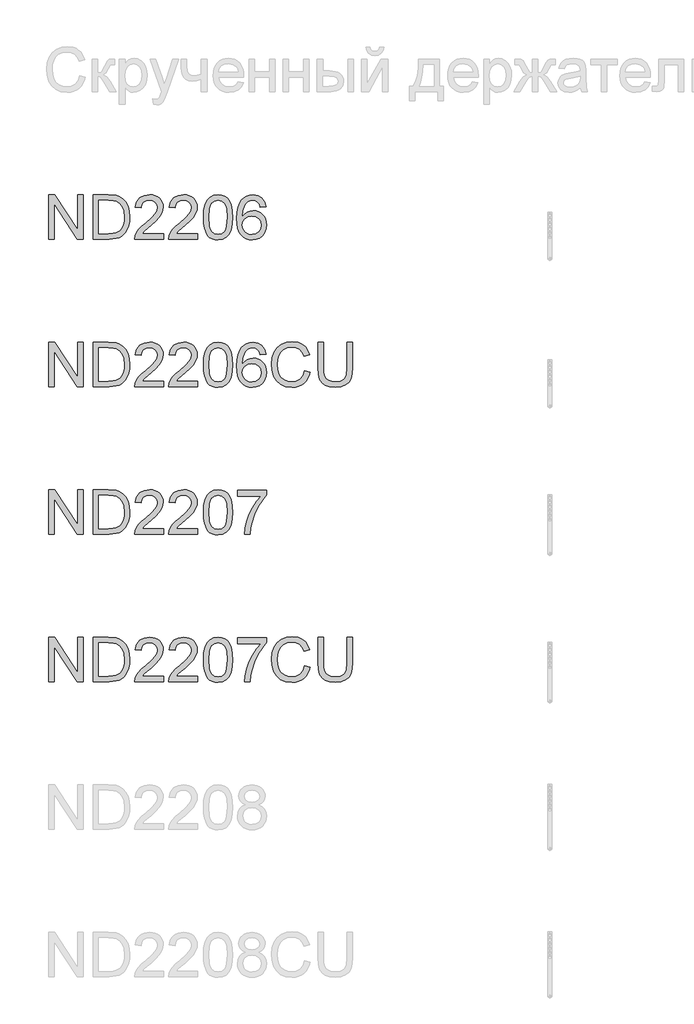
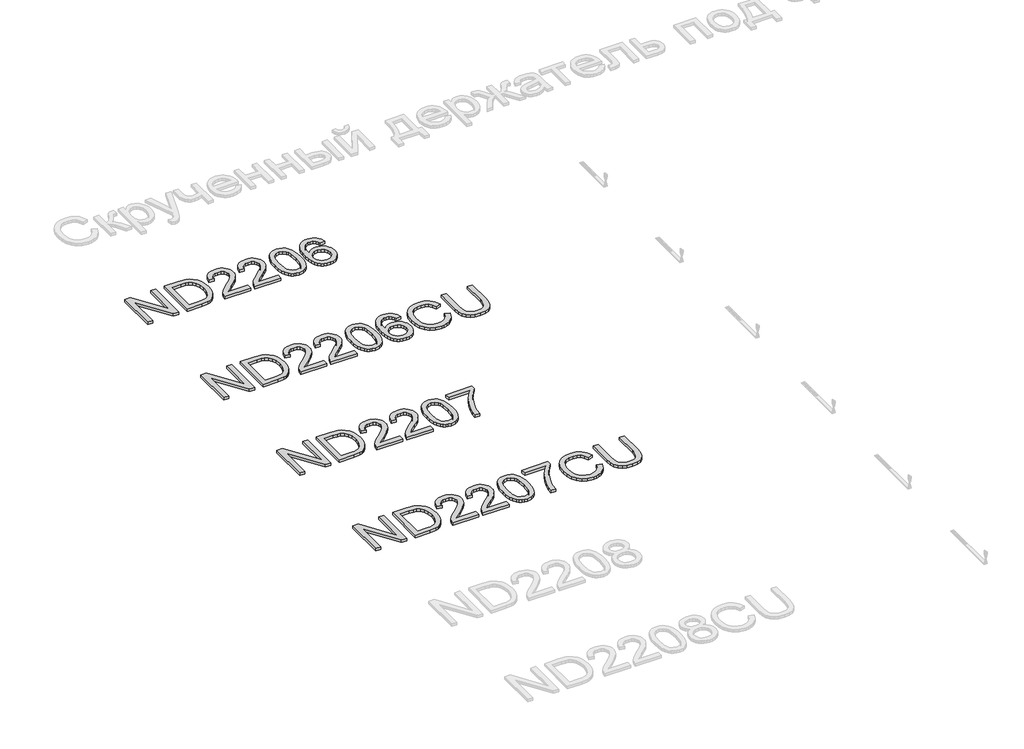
# One storey, part 92 of 124: 4 proxies.
"""IFC4 building model written with IfcOpenShell, lengths in millimetres."""

from ifc_helpers import new_model, si_unit, origin, origin_with_axes, place, context, project, spatial, polyline, outline, extrude, element, save

model = new_model("IFC4")

# Units and contexts
model_context = context("Model", 3, world=origin())
ifc_project = project(units=[si_unit("LENGTHUNIT", "METRE", prefix="MILLI")], contexts=[model_context])

# Site, building, storey
site = spatial("IfcSite", under=ifc_project)
building = spatial("IfcBuilding", under=site)
storey = spatial("IfcBuildingStorey", under=building, Name="Этаж 01", Elevation=0.0)

# Proxies
placement = place(None, origin())
element("IfcBuildingElementProxy", 1, Name="300", ObjectType="300", at=placement, inside=storey, context=model_context, shape_type="SweptSolid", body=[
    extrude(outline(polyline([(23340.1671275, -19519.5141033), (23340.1671275, -19218.1451728), (23380.4869942, -19218.1451728), (23537.9404881, -19456.9005877), (23537.9404881, -19218.1451728), (23575.6116044, -19218.1451728), (23575.6116044, -19519.5141033), (23535.2917378, -19519.5141033), (23377.8382438, -19280.685112), (23377.8382438, -19519.5141033), (23340.1671275, -19519.5141033)])), origin_with_axes(), (0.0, 0.0, 1.0), 20.0),
    extrude(outline(polyline([(23641.536058, -19519.5141033), (23641.536058, -19218.1451728), (23745.4995098, -19218.1451728), (23799.2838575, -19222.4861804), (23823.3065518, -19230.8554957), (23843.5768497, -19244.0440653), (23864.4173648, -19266.9999018), (23879.2614033, -19295.5475446), (23888.1457534, -19329.1351708), (23891.1072035, -19367.2109573), (23889.1022466, -19399.5569817), (23883.087376, -19428.0218511), (23873.9271143, -19452.2560775), (23862.4859843, -19471.9101731), (23849.3158089, -19487.4255962), (23834.968411, -19499.2438053), (23818.4964947, -19508.0085939), (23798.9527637, -19514.3637553), (23750.5027049, -19519.5141033), (23641.536058, -19519.5141033)]), holes=[polyline([(23679.2071743, -19481.842987), (23745.8673918, -19481.842987), (23773.4401473, -19480.4818236), (23794.3542388, -19476.3983334), (23810.1363764, -19469.8316398), (23822.3132704, -19461.020866), (23835.4006724, -19444.7144966), (23845.2323187, -19423.6072671), (23851.3851451, -19397.6072071), (23853.4360872, -19366.6223461), (23849.4169764, -19325.5667154), (23837.359644, -19295.253239), (23819.5449584, -19274.4311181), (23798.2537879, -19261.8495538), (23776.5855384, -19257.3246053), (23744.8373222, -19255.8162891), (23679.2071743, -19255.8162891), (23679.2071743, -19481.842987)])]), origin_with_axes(), (0.0, 0.0, 1.0), 20.0),
    extrude(outline(polyline([(24121.8427909, -19481.842987), (24121.8427909, -19519.5141033), (23924.0694303, -19519.5141033), (23928.1161322, -19493.5416344), (23937.4051526, -19473.2437453), (23950.9983923, -19453.5528615), (23970.661685, -19432.9422727), (23998.1608641, -19409.8852687), (24038.8118246, -19373.7776509), (24063.2024008, -19347.1246003), (24075.397689, -19325.493139), (24079.462785, -19304.4502889), (24075.6276152, -19285.5871396), (24064.1221058, -19269.9061695), (24046.4361789, -19259.3387592), (24024.0597566, -19255.8162891), (24000.5612941, -19259.2559858), (23982.3051501, -19269.5750757), (23970.5237292, -19285.9642186), (23966.4494361, -19307.614074), (23928.7783198, -19302.9051845), (23937.9109903, -19266.4664729), (23946.4573489, -19251.9305355), (23957.6570564, -19239.8502105), (23971.2525954, -19230.3542565), (23986.9864485, -19223.5714322), (24024.869097, -19218.1451728), (24045.0589207, -19219.653489), (24063.0276569, -19224.1784375), (24078.7753056, -19231.7200184), (24092.3018667, -19242.2782317), (24103.1658818, -19255.0713281), (24110.9258927, -19269.3175583), (24115.5818992, -19285.0169225), (24117.1339013, -19302.1694205), (24115.4600383, -19320.1864412), (24110.438449, -19337.8907622), (24101.5265077, -19355.8985859), (24088.1815883, -19374.8261146), (24066.9088119, -19397.4232661), (24034.2132996, -19426.4399585), (23990.8768006, -19462.676335), (23973.8806524, -19481.842987), (24121.8427909, -19481.842987)])), origin_with_axes(), (0.0, 0.0, 1.0), 20.0),
    extrude(outline(polyline([(24352.5783783, -19481.842987), (24352.5783783, -19519.5141033), (24154.8050176, -19519.5141033), (24158.8517196, -19493.5416344), (24168.14074, -19473.2437453), (24181.7339797, -19453.5528615), (24201.3972723, -19432.9422727), (24228.8964515, -19409.8852687), (24269.5474119, -19373.7776509), (24293.9379882, -19347.1246003), (24306.1332764, -19325.493139), (24310.1983724, -19304.4502889), (24306.3632026, -19285.5871396), (24294.8576932, -19269.9061695), (24277.1717663, -19259.3387592), (24254.7953439, -19255.8162891), (24231.2968815, -19259.2559858), (24213.0407375, -19269.5750757), (24201.2593166, -19285.9642186), (24197.1850235, -19307.614074), (24159.5139072, -19302.9051845), (24168.6465777, -19266.4664729), (24177.1929363, -19251.9305355), (24188.3926438, -19239.8502105), (24201.9881828, -19230.3542565), (24217.7220359, -19223.5714322), (24255.6046843, -19218.1451728), (24275.7945081, -19219.653489), (24293.7632443, -19224.1784375), (24309.5108929, -19231.7200184), (24323.037454, -19242.2782317), (24333.9014692, -19255.0713281), (24341.66148, -19269.3175583), (24346.3174865, -19285.0169225), (24347.8694887, -19302.1694205), (24346.1956256, -19320.1864412), (24341.1740364, -19337.8907622), (24332.2620951, -19355.8985859), (24318.9171757, -19374.8261146), (24297.6443993, -19397.4232661), (24264.948887, -19426.4399585), (24221.612388, -19462.676335), (24204.6162398, -19481.842987), (24352.5783783, -19481.842987)])), origin_with_axes(), (0.0, 0.0, 1.0), 20.0),
    extrude(outline(polyline([(24390.2494946, -19371.2576592), (24393.0178066, -19323.0191326), (24401.3227426, -19284.5478729), (24415.0815292, -19255.2552691), (24434.211393, -19234.5527098), (24458.8502896, -19222.2470571), (24489.1361749, -19218.1451728), (24512.3495288, -19220.573194), (24533.1348615, -19227.8572575), (24550.5172858, -19239.7122548), (24563.5219143, -19255.8530773), (24573.3443636, -19276.1417694), (24581.1802501, -19300.4403751), (24586.3122039, -19331.2964775), (24588.0228552, -19371.2576592), (24585.2821343, -19419.2202743), (24577.0599717, -19457.5995635), (24563.3839585, -19486.9197585), (24544.2816859, -19507.7050912), (24519.587607, -19520.0935174), (24489.1361749, -19524.2229928), (24468.3876303, -19522.4295681), (24449.9935306, -19517.0492939), (24433.9538756, -19508.0821703), (24420.2686654, -19495.5281972), (24407.1352781, -19472.8344766), (24397.7542873, -19444.5581467), (24392.1256927, -19410.6992076), (24390.2494946, -19371.2576592)]), holes=[polyline([(24427.9206109, -19371.1840828), (24432.3351948, -19430.4406752), (24437.8534247, -19450.7086739), (24445.5789466, -19464.7364742), (24465.2974216, -19481.0980259), (24489.1361749, -19486.5518765), (24512.9749282, -19481.0796318), (24532.6934031, -19464.6628978), (24540.418925, -19450.6121048), (24545.9371549, -19430.3487047), (24550.3517389, -19371.1840828), (24546.0843077, -19313.2610627), (24540.7500188, -19293.0597426), (24533.2820143, -19278.6985492), (24513.6003275, -19261.5368541), (24488.6947165, -19255.8162891), (24465.1134806, -19260.8562725), (24446.1675578, -19275.9762225), (24438.1845185, -19291.6112072), (24432.4823476, -19312.6908456), (24427.9206109, -19371.1840828)])]), origin_with_axes(), (0.0, 0.0, 1.0), 20.0),
    extrude(outline(polyline([(24814.049553, -19298.196295), (24776.3784367, -19302.9051845), (24770.3083838, -19284.2351732), (24762.1046153, -19271.4880621), (24745.0164966, -19259.7342324), (24724.3599226, -19255.8162891), (24706.8487396, -19258.0971575), (24690.3676262, -19264.9397626), (24676.2133665, -19279.3515398), (24664.6526748, -19299.1895763), (24656.8443794, -19327.2497755), (24653.9473087, -19366.3280405), (24669.0580617, -19348.6972959), (24687.1670529, -19336.2720815), (24707.2626069, -19328.9052445), (24728.3330481, -19326.4496322), (24746.4328423, -19328.1280938), (24763.1346849, -19333.1634786), (24778.4385759, -19341.5557866), (24792.3445153, -19353.3050178), (24803.9006085, -19367.7121965), (24812.1549607, -19384.0783467), (24817.1075721, -19402.4034686), (24818.7584425, -19422.6875621), (24815.6498397, -19449.6625094), (24806.3240311, -19474.669288), (24791.553569, -19495.8776851), (24772.1110056, -19511.4574876), (24748.8792576, -19521.0316165), (24722.7412418, -19524.2229928), (24700.2843453, -19522.1076713), (24680.002551, -19515.7617069), (24661.8958591, -19505.1850995), (24645.9642694, -19490.3778492), (24632.9757357, -19470.7145566), (24623.6982116, -19445.5698222), (24618.1316972, -19414.9436461), (24616.2761924, -19378.8360283), (24618.3363316, -19338.3552133), (24624.5167491, -19303.8064954), (24634.817445, -19275.1898747), (24649.2384192, -19252.5053512), (24664.8688054, -19237.4727731), (24682.9915922, -19226.7352174), (24703.6067795, -19220.292684), (24726.7143673, -19218.1451728), (24759.7685646, -19223.4610676), (24786.2376742, -19239.4087521), (24804.7789267, -19264.7374275), (24814.049553, -19298.196295)]), holes=[polyline([(24653.9473087, -19422.0989509), (24656.1270095, -19438.7915965), (24662.666112, -19454.7300839), (24672.8196551, -19468.4336882), (24685.8426777, -19478.4216844), (24701.5604359, -19484.5193285), (24719.7981858, -19486.5518765), (24744.6578117, -19482.3396276), (24764.2015427, -19469.7028811), (24776.8658803, -19449.8372534), (24781.0873262, -19423.9383609), (24776.9210626, -19399.0787351), (24764.4222719, -19380.1236153), (24744.5474471, -19368.1214652), (24718.2530815, -19364.1207485), (24693.4302438, -19368.1214652), (24672.6725023, -19380.1236153), (24658.6286071, -19398.6188826), (24653.9473087, -19422.0989509)])]), origin_with_axes(), (0.0, 0.0, 1.0), 20.0),
])
element("IfcBuildingElementProxy", 2, Name="300", ObjectType="300", at=placement, inside=storey, context=model_context, shape_type="SweptSolid", body=[
    extrude(outline(polyline([(23340.1671275, -20519.5141033), (23340.1671275, -20218.1451728), (23380.4869942, -20218.1451728), (23537.9404881, -20456.9005877), (23537.9404881, -20218.1451728), (23575.6116044, -20218.1451728), (23575.6116044, -20519.5141033), (23535.2917378, -20519.5141033), (23377.8382438, -20280.685112), (23377.8382438, -20519.5141033), (23340.1671275, -20519.5141033)])), origin_with_axes(), (0.0, 0.0, 1.0), 20.0),
    extrude(outline(polyline([(23641.536058, -20519.5141033), (23641.536058, -20218.1451728), (23745.4995098, -20218.1451728), (23799.2838575, -20222.4861804), (23823.3065518, -20230.8554957), (23843.5768497, -20244.0440653), (23864.4173648, -20266.9999018), (23879.2614033, -20295.5475446), (23888.1457534, -20329.1351708), (23891.1072035, -20367.2109573), (23889.1022466, -20399.5569817), (23883.087376, -20428.0218511), (23873.9271143, -20452.2560775), (23862.4859843, -20471.9101731), (23849.3158089, -20487.4255962), (23834.968411, -20499.2438053), (23818.4964947, -20508.0085939), (23798.9527637, -20514.3637553), (23750.5027049, -20519.5141033), (23641.536058, -20519.5141033)]), holes=[polyline([(23679.2071743, -20481.842987), (23745.8673918, -20481.842987), (23773.4401473, -20480.4818236), (23794.3542388, -20476.3983334), (23810.1363764, -20469.8316398), (23822.3132704, -20461.020866), (23835.4006724, -20444.7144966), (23845.2323187, -20423.6072671), (23851.3851451, -20397.6072071), (23853.4360872, -20366.6223461), (23849.4169764, -20325.5667154), (23837.359644, -20295.253239), (23819.5449584, -20274.4311181), (23798.2537879, -20261.8495538), (23776.5855384, -20257.3246053), (23744.8373222, -20255.8162891), (23679.2071743, -20255.8162891), (23679.2071743, -20481.842987)])]), origin_with_axes(), (0.0, 0.0, 1.0), 20.0),
    extrude(outline(polyline([(24121.8427909, -20481.842987), (24121.8427909, -20519.5141033), (23924.0694303, -20519.5141033), (23928.1161322, -20493.5416344), (23937.4051526, -20473.2437453), (23950.9983923, -20453.5528615), (23970.661685, -20432.9422727), (23998.1608641, -20409.8852687), (24038.8118246, -20373.7776509), (24063.2024008, -20347.1246003), (24075.397689, -20325.493139), (24079.462785, -20304.4502889), (24075.6276152, -20285.5871396), (24064.1221058, -20269.9061695), (24046.4361789, -20259.3387592), (24024.0597566, -20255.8162891), (24000.5612941, -20259.2559858), (23982.3051501, -20269.5750757), (23970.5237292, -20285.9642186), (23966.4494361, -20307.614074), (23928.7783198, -20302.9051845), (23937.9109903, -20266.4664729), (23946.4573489, -20251.9305355), (23957.6570564, -20239.8502105), (23971.2525954, -20230.3542565), (23986.9864485, -20223.5714322), (24024.869097, -20218.1451728), (24045.0589207, -20219.653489), (24063.0276569, -20224.1784375), (24078.7753056, -20231.7200184), (24092.3018667, -20242.2782317), (24103.1658818, -20255.0713281), (24110.9258927, -20269.3175583), (24115.5818992, -20285.0169225), (24117.1339013, -20302.1694205), (24115.4600383, -20320.1864412), (24110.438449, -20337.8907622), (24101.5265077, -20355.8985859), (24088.1815883, -20374.8261146), (24066.9088119, -20397.4232661), (24034.2132996, -20426.4399585), (23990.8768006, -20462.676335), (23973.8806524, -20481.842987), (24121.8427909, -20481.842987)])), origin_with_axes(), (0.0, 0.0, 1.0), 20.0),
    extrude(outline(polyline([(24352.5783783, -20481.842987), (24352.5783783, -20519.5141033), (24154.8050176, -20519.5141033), (24158.8517196, -20493.5416344), (24168.14074, -20473.2437453), (24181.7339797, -20453.5528615), (24201.3972723, -20432.9422727), (24228.8964515, -20409.8852687), (24269.5474119, -20373.7776509), (24293.9379882, -20347.1246003), (24306.1332764, -20325.493139), (24310.1983724, -20304.4502889), (24306.3632026, -20285.5871396), (24294.8576932, -20269.9061695), (24277.1717663, -20259.3387592), (24254.7953439, -20255.8162891), (24231.2968815, -20259.2559858), (24213.0407375, -20269.5750757), (24201.2593166, -20285.9642186), (24197.1850235, -20307.614074), (24159.5139072, -20302.9051845), (24168.6465777, -20266.4664729), (24177.1929363, -20251.9305355), (24188.3926438, -20239.8502105), (24201.9881828, -20230.3542565), (24217.7220359, -20223.5714322), (24255.6046843, -20218.1451728), (24275.7945081, -20219.653489), (24293.7632443, -20224.1784375), (24309.5108929, -20231.7200184), (24323.037454, -20242.2782317), (24333.9014692, -20255.0713281), (24341.66148, -20269.3175583), (24346.3174865, -20285.0169225), (24347.8694887, -20302.1694205), (24346.1956256, -20320.1864412), (24341.1740364, -20337.8907622), (24332.2620951, -20355.8985859), (24318.9171757, -20374.8261146), (24297.6443993, -20397.4232661), (24264.948887, -20426.4399585), (24221.612388, -20462.676335), (24204.6162398, -20481.842987), (24352.5783783, -20481.842987)])), origin_with_axes(), (0.0, 0.0, 1.0), 20.0),
    extrude(outline(polyline([(24390.2494946, -20371.2576592), (24393.0178066, -20323.0191326), (24401.3227426, -20284.5478729), (24415.0815292, -20255.2552691), (24434.211393, -20234.5527098), (24458.8502896, -20222.2470571), (24489.1361749, -20218.1451728), (24512.3495288, -20220.573194), (24533.1348615, -20227.8572575), (24550.5172858, -20239.7122548), (24563.5219143, -20255.8530773), (24573.3443636, -20276.1417694), (24581.1802501, -20300.4403751), (24586.3122039, -20331.2964775), (24588.0228552, -20371.2576592), (24585.2821343, -20419.2202743), (24577.0599717, -20457.5995635), (24563.3839585, -20486.9197585), (24544.2816859, -20507.7050912), (24519.587607, -20520.0935174), (24489.1361749, -20524.2229928), (24468.3876303, -20522.4295681), (24449.9935306, -20517.0492939), (24433.9538756, -20508.0821703), (24420.2686654, -20495.5281972), (24407.1352781, -20472.8344766), (24397.7542873, -20444.5581467), (24392.1256927, -20410.6992076), (24390.2494946, -20371.2576592)]), holes=[polyline([(24427.9206109, -20371.1840828), (24432.3351948, -20430.4406752), (24437.8534247, -20450.7086739), (24445.5789466, -20464.7364742), (24465.2974216, -20481.0980259), (24489.1361749, -20486.5518765), (24512.9749282, -20481.0796318), (24532.6934031, -20464.6628978), (24540.418925, -20450.6121048), (24545.9371549, -20430.3487047), (24550.3517389, -20371.1840828), (24546.0843077, -20313.2610627), (24540.7500188, -20293.0597426), (24533.2820143, -20278.6985492), (24513.6003275, -20261.5368541), (24488.6947165, -20255.8162891), (24465.1134806, -20260.8562725), (24446.1675578, -20275.9762225), (24438.1845185, -20291.6112072), (24432.4823476, -20312.6908456), (24427.9206109, -20371.1840828)])]), origin_with_axes(), (0.0, 0.0, 1.0), 20.0),
    extrude(outline(polyline([(24814.049553, -20298.196295), (24776.3784367, -20302.9051845), (24770.3083838, -20284.2351732), (24762.1046153, -20271.4880621), (24745.0164966, -20259.7342324), (24724.3599226, -20255.8162891), (24706.8487396, -20258.0971575), (24690.3676262, -20264.9397626), (24676.2133665, -20279.3515398), (24664.6526748, -20299.1895763), (24656.8443794, -20327.2497755), (24653.9473087, -20366.3280405), (24669.0580617, -20348.6972959), (24687.1670529, -20336.2720815), (24707.2626069, -20328.9052445), (24728.3330481, -20326.4496322), (24746.4328423, -20328.1280938), (24763.1346849, -20333.1634786), (24778.4385759, -20341.5557866), (24792.3445153, -20353.3050178), (24803.9006085, -20367.7121965), (24812.1549607, -20384.0783467), (24817.1075721, -20402.4034686), (24818.7584425, -20422.6875621), (24815.6498397, -20449.6625094), (24806.3240311, -20474.669288), (24791.553569, -20495.8776851), (24772.1110056, -20511.4574876), (24748.8792576, -20521.0316165), (24722.7412418, -20524.2229928), (24700.2843453, -20522.1076713), (24680.002551, -20515.7617069), (24661.8958591, -20505.1850995), (24645.9642694, -20490.3778492), (24632.9757357, -20470.7145566), (24623.6982116, -20445.5698222), (24618.1316972, -20414.9436461), (24616.2761924, -20378.8360283), (24618.3363316, -20338.3552133), (24624.5167491, -20303.8064954), (24634.817445, -20275.1898747), (24649.2384192, -20252.5053512), (24664.8688054, -20237.4727731), (24682.9915922, -20226.7352174), (24703.6067795, -20220.292684), (24726.7143673, -20218.1451728), (24759.7685646, -20223.4610676), (24786.2376742, -20239.4087521), (24804.7789267, -20264.7374275), (24814.049553, -20298.196295)]), holes=[polyline([(24653.9473087, -20422.0989509), (24656.1270095, -20438.7915965), (24662.666112, -20454.7300839), (24672.8196551, -20468.4336882), (24685.8426777, -20478.4216844), (24701.5604359, -20484.5193285), (24719.7981858, -20486.5518765), (24744.6578117, -20482.3396276), (24764.2015427, -20469.7028811), (24776.8658803, -20449.8372534), (24781.0873262, -20423.9383609), (24776.9210626, -20399.0787351), (24764.4222719, -20380.1236153), (24744.5474471, -20368.1214652), (24718.2530815, -20364.1207485), (24693.4302438, -20368.1214652), (24672.6725023, -20380.1236153), (24658.6286071, -20398.6188826), (24653.9473087, -20422.0989509)])]), origin_with_axes(), (0.0, 0.0, 1.0), 20.0),
    extrude(outline(polyline([(25077.7473671, -20412.3868663), (25115.4184835, -20422.0989509), (25107.9642745, -20445.5261362), (25098.0360592, -20465.99647), (25085.6338374, -20483.5099522), (25070.7576092, -20498.0665829), (25053.743067, -20509.5100123), (25034.9259029, -20517.6838903), (25014.3061171, -20522.5882172), (24991.8837095, -20524.2229928), (24948.1885255, -20519.27498), (24913.4880563, -20504.4309415), (24886.890188, -20480.2059121), (24867.5028069, -20447.1149266), (24855.6662037, -20408.2114056), (24851.7206693, -20366.5487697), (24856.1812385, -20322.6052653), (24869.5629461, -20284.6582375), (24891.1668162, -20253.9124998), (24920.2938732, -20231.5728656), (24954.8379926, -20217.9704289), (24992.6930499, -20213.4362833), (25033.9970009, -20219.3040011), (25051.9657371, -20226.6386484), (25068.1456471, -20236.9071546), (25082.2700164, -20249.8382067), (25094.0721307, -20265.1604918), (25110.7095939, -20302.9787609), (25073.0384776, -20311.9550816), (25059.9786668, -20284.4834936), (25042.13639, -20265.6387384), (25019.2909181, -20254.7402343), (24991.2215219, -20251.1073996), (24958.8663004, -20255.1357074), (24932.2868263, -20267.220631), (24912.1176959, -20286.0929773), (24898.9935057, -20310.4835536), (24891.7922156, -20338.0563091), (24889.3917856, -20366.4751933), (24892.233674, -20401.27683), (24900.7593393, -20431.3695772), (24915.2906781, -20455.6038036), (24936.1495872, -20472.8298781), (24961.1563658, -20483.1213769), (24988.1313131, -20486.5518765), (25019.5760267, -20481.8797752), (25045.7784218, -20467.8634711), (25065.5612761, -20444.6501172), (25077.7473671, -20412.3868663)])), origin_with_axes(), (0.0, 0.0, 1.0), 20.0),
    extrude(outline(polyline([(25364.989629, -20218.1451728), (25402.6607453, -20218.1451728), (25402.6607453, -20392.0062037), (25400.1039654, -20432.7215435), (25392.4336258, -20464.0742866), (25378.1046221, -20488.2625278), (25355.5718499, -20507.484362), (25324.7801269, -20520.0383351), (25285.6742708, -20524.2229928), (25247.4237404, -20520.580961), (25216.8435495, -20509.6548658), (25193.9245012, -20491.8217861), (25178.6573984, -20467.4588009), (25170.0765509, -20434.7816827), (25167.2162684, -20392.0062037), (25167.2162684, -20218.1451728), (25204.8873847, -20218.1451728), (25204.8873847, -20390.6818285), (25206.7451888, -20424.5361692), (25212.318601, -20448.108208), (25222.4169618, -20464.4329715), (25237.8496114, -20476.5454862), (25257.9727566, -20484.0502789), (25282.1426037, -20486.5518765), (25320.4575135, -20481.6038637), (25334.8003128, -20475.4188476), (25345.9333416, -20466.7598252), (25354.2704673, -20454.5829311), (25360.2255571, -20437.8443003), (25364.989629, -20390.6818285), (25364.989629, -20218.1451728)])), origin_with_axes(), (0.0, 0.0, 1.0), 20.0),
])
element("IfcBuildingElementProxy", 3, Name="300", ObjectType="300", at=placement, inside=storey, context=model_context, shape_type="SweptSolid", body=[
    extrude(outline(polyline([(23340.1671275, -21519.5141033), (23340.1671275, -21218.1451728), (23380.4869942, -21218.1451728), (23537.9404881, -21456.9005877), (23537.9404881, -21218.1451728), (23575.6116044, -21218.1451728), (23575.6116044, -21519.5141033), (23535.2917378, -21519.5141033), (23377.8382438, -21280.685112), (23377.8382438, -21519.5141033), (23340.1671275, -21519.5141033)])), origin_with_axes(), (0.0, 0.0, 1.0), 20.0),
    extrude(outline(polyline([(23641.536058, -21519.5141033), (23641.536058, -21218.1451728), (23745.4995098, -21218.1451728), (23799.2838575, -21222.4861804), (23823.3065518, -21230.8554957), (23843.5768497, -21244.0440653), (23864.4173648, -21266.9999018), (23879.2614033, -21295.5475446), (23888.1457534, -21329.1351708), (23891.1072035, -21367.2109573), (23889.1022466, -21399.5569817), (23883.087376, -21428.0218511), (23873.9271143, -21452.2560775), (23862.4859843, -21471.9101731), (23849.3158089, -21487.4255962), (23834.968411, -21499.2438053), (23818.4964947, -21508.0085939), (23798.9527637, -21514.3637553), (23750.5027049, -21519.5141033), (23641.536058, -21519.5141033)]), holes=[polyline([(23679.2071743, -21481.842987), (23745.8673918, -21481.842987), (23773.4401473, -21480.4818236), (23794.3542388, -21476.3983334), (23810.1363764, -21469.8316398), (23822.3132704, -21461.020866), (23835.4006724, -21444.7144966), (23845.2323187, -21423.6072671), (23851.3851451, -21397.6072071), (23853.4360872, -21366.6223461), (23849.4169764, -21325.5667154), (23837.359644, -21295.253239), (23819.5449584, -21274.4311181), (23798.2537879, -21261.8495538), (23776.5855384, -21257.3246053), (23744.8373222, -21255.8162891), (23679.2071743, -21255.8162891), (23679.2071743, -21481.842987)])]), origin_with_axes(), (0.0, 0.0, 1.0), 20.0),
    extrude(outline(polyline([(24121.8427909, -21481.842987), (24121.8427909, -21519.5141033), (23924.0694303, -21519.5141033), (23928.1161322, -21493.5416344), (23937.4051526, -21473.2437453), (23950.9983923, -21453.5528615), (23970.661685, -21432.9422727), (23998.1608641, -21409.8852687), (24038.8118246, -21373.7776509), (24063.2024008, -21347.1246003), (24075.397689, -21325.493139), (24079.462785, -21304.4502889), (24075.6276152, -21285.5871396), (24064.1221058, -21269.9061695), (24046.4361789, -21259.3387592), (24024.0597566, -21255.8162891), (24000.5612941, -21259.2559858), (23982.3051501, -21269.5750757), (23970.5237292, -21285.9642186), (23966.4494361, -21307.614074), (23928.7783198, -21302.9051845), (23937.9109903, -21266.4664729), (23946.4573489, -21251.9305355), (23957.6570564, -21239.8502105), (23971.2525954, -21230.3542565), (23986.9864485, -21223.5714322), (24024.869097, -21218.1451728), (24045.0589207, -21219.653489), (24063.0276569, -21224.1784375), (24078.7753056, -21231.7200184), (24092.3018667, -21242.2782317), (24103.1658818, -21255.0713281), (24110.9258927, -21269.3175583), (24115.5818992, -21285.0169225), (24117.1339013, -21302.1694205), (24115.4600383, -21320.1864412), (24110.438449, -21337.8907622), (24101.5265077, -21355.8985859), (24088.1815883, -21374.8261146), (24066.9088119, -21397.4232661), (24034.2132996, -21426.4399585), (23990.8768006, -21462.676335), (23973.8806524, -21481.842987), (24121.8427909, -21481.842987)])), origin_with_axes(), (0.0, 0.0, 1.0), 20.0),
    extrude(outline(polyline([(24352.5783783, -21481.842987), (24352.5783783, -21519.5141033), (24154.8050176, -21519.5141033), (24158.8517196, -21493.5416344), (24168.14074, -21473.2437453), (24181.7339797, -21453.5528615), (24201.3972723, -21432.9422727), (24228.8964515, -21409.8852687), (24269.5474119, -21373.7776509), (24293.9379882, -21347.1246003), (24306.1332764, -21325.493139), (24310.1983724, -21304.4502889), (24306.3632026, -21285.5871396), (24294.8576932, -21269.9061695), (24277.1717663, -21259.3387592), (24254.7953439, -21255.8162891), (24231.2968815, -21259.2559858), (24213.0407375, -21269.5750757), (24201.2593166, -21285.9642186), (24197.1850235, -21307.614074), (24159.5139072, -21302.9051845), (24168.6465777, -21266.4664729), (24177.1929363, -21251.9305355), (24188.3926438, -21239.8502105), (24201.9881828, -21230.3542565), (24217.7220359, -21223.5714322), (24255.6046843, -21218.1451728), (24275.7945081, -21219.653489), (24293.7632443, -21224.1784375), (24309.5108929, -21231.7200184), (24323.037454, -21242.2782317), (24333.9014692, -21255.0713281), (24341.66148, -21269.3175583), (24346.3174865, -21285.0169225), (24347.8694887, -21302.1694205), (24346.1956256, -21320.1864412), (24341.1740364, -21337.8907622), (24332.2620951, -21355.8985859), (24318.9171757, -21374.8261146), (24297.6443993, -21397.4232661), (24264.948887, -21426.4399585), (24221.612388, -21462.676335), (24204.6162398, -21481.842987), (24352.5783783, -21481.842987)])), origin_with_axes(), (0.0, 0.0, 1.0), 20.0),
    extrude(outline(polyline([(24390.2494946, -21371.2576592), (24393.0178066, -21323.0191326), (24401.3227426, -21284.5478729), (24415.0815292, -21255.2552691), (24434.211393, -21234.5527098), (24458.8502896, -21222.2470571), (24489.1361749, -21218.1451728), (24512.3495288, -21220.573194), (24533.1348615, -21227.8572575), (24550.5172858, -21239.7122548), (24563.5219143, -21255.8530773), (24573.3443636, -21276.1417694), (24581.1802501, -21300.4403751), (24586.3122039, -21331.2964775), (24588.0228552, -21371.2576592), (24585.2821343, -21419.2202743), (24577.0599717, -21457.5995635), (24563.3839585, -21486.9197585), (24544.2816859, -21507.7050912), (24519.587607, -21520.0935174), (24489.1361749, -21524.2229928), (24468.3876303, -21522.4295681), (24449.9935306, -21517.0492939), (24433.9538756, -21508.0821703), (24420.2686654, -21495.5281972), (24407.1352781, -21472.8344766), (24397.7542873, -21444.5581467), (24392.1256927, -21410.6992076), (24390.2494946, -21371.2576592)]), holes=[polyline([(24427.9206109, -21371.1840828), (24432.3351948, -21430.4406752), (24437.8534247, -21450.7086739), (24445.5789466, -21464.7364742), (24465.2974216, -21481.0980259), (24489.1361749, -21486.5518765), (24512.9749282, -21481.0796318), (24532.6934031, -21464.6628978), (24540.418925, -21450.6121048), (24545.9371549, -21430.3487047), (24550.3517389, -21371.1840828), (24546.0843077, -21313.2610627), (24540.7500188, -21293.0597426), (24533.2820143, -21278.6985492), (24513.6003275, -21261.5368541), (24488.6947165, -21255.8162891), (24465.1134806, -21260.8562725), (24446.1675578, -21275.9762225), (24438.1845185, -21291.6112072), (24432.4823476, -21312.6908456), (24427.9206109, -21371.1840828)])]), origin_with_axes(), (0.0, 0.0, 1.0), 20.0),
    extrude(outline(polyline([(24620.9850819, -21260.5251787), (24620.9850819, -21222.8540624), (24818.7584425, -21222.8540624), (24818.7584425, -21253.3146916), (24790.5694847, -21288.990048), (24762.6564383, -21334.3590951), (24738.0359358, -21385.2831603), (24719.7246094, -21437.6235711), (24710.7482888, -21476.7846095), (24705.7450936, -21519.5141033), (24668.0739773, -21519.5141033), (24672.1482704, -21480.6841587), (24683.0467745, -21434.5333624), (24700.475184, -21385.6142541), (24724.1391934, -21338.4793734), (24751.7671312, -21295.8694413), (24781.0873262, -21260.5251787), (24620.9850819, -21260.5251787)])), origin_with_axes(), (0.0, 0.0, 1.0), 20.0),
])
element("IfcBuildingElementProxy", 4, Name="300", ObjectType="300", at=placement, inside=storey, context=model_context, shape_type="SweptSolid", body=[
    extrude(outline(polyline([(23340.1671275, -22519.5141033), (23340.1671275, -22218.1451728), (23380.4869942, -22218.1451728), (23537.9404881, -22456.9005877), (23537.9404881, -22218.1451728), (23575.6116044, -22218.1451728), (23575.6116044, -22519.5141033), (23535.2917378, -22519.5141033), (23377.8382438, -22280.685112), (23377.8382438, -22519.5141033), (23340.1671275, -22519.5141033)])), origin_with_axes(), (0.0, 0.0, 1.0), 20.0),
    extrude(outline(polyline([(23641.536058, -22519.5141033), (23641.536058, -22218.1451728), (23745.4995098, -22218.1451728), (23799.2838575, -22222.4861804), (23823.3065518, -22230.8554957), (23843.5768497, -22244.0440653), (23864.4173648, -22266.9999018), (23879.2614033, -22295.5475446), (23888.1457534, -22329.1351708), (23891.1072035, -22367.2109573), (23889.1022466, -22399.5569817), (23883.087376, -22428.0218511), (23873.9271143, -22452.2560775), (23862.4859843, -22471.9101731), (23849.3158089, -22487.4255962), (23834.968411, -22499.2438053), (23818.4964947, -22508.0085939), (23798.9527637, -22514.3637553), (23750.5027049, -22519.5141033), (23641.536058, -22519.5141033)]), holes=[polyline([(23679.2071743, -22481.842987), (23745.8673918, -22481.842987), (23773.4401473, -22480.4818236), (23794.3542388, -22476.3983334), (23810.1363764, -22469.8316398), (23822.3132704, -22461.020866), (23835.4006724, -22444.7144966), (23845.2323187, -22423.6072671), (23851.3851451, -22397.6072071), (23853.4360872, -22366.6223461), (23849.4169764, -22325.5667154), (23837.359644, -22295.253239), (23819.5449584, -22274.4311181), (23798.2537879, -22261.8495538), (23776.5855384, -22257.3246053), (23744.8373222, -22255.8162891), (23679.2071743, -22255.8162891), (23679.2071743, -22481.842987)])]), origin_with_axes(), (0.0, 0.0, 1.0), 20.0),
    extrude(outline(polyline([(24121.8427909, -22481.842987), (24121.8427909, -22519.5141033), (23924.0694303, -22519.5141033), (23928.1161322, -22493.5416344), (23937.4051526, -22473.2437453), (23950.9983923, -22453.5528615), (23970.661685, -22432.9422727), (23998.1608641, -22409.8852687), (24038.8118246, -22373.7776509), (24063.2024008, -22347.1246003), (24075.397689, -22325.493139), (24079.462785, -22304.4502889), (24075.6276152, -22285.5871396), (24064.1221058, -22269.9061695), (24046.4361789, -22259.3387592), (24024.0597566, -22255.8162891), (24000.5612941, -22259.2559858), (23982.3051501, -22269.5750757), (23970.5237292, -22285.9642186), (23966.4494361, -22307.614074), (23928.7783198, -22302.9051845), (23937.9109903, -22266.4664729), (23946.4573489, -22251.9305355), (23957.6570564, -22239.8502105), (23971.2525954, -22230.3542565), (23986.9864485, -22223.5714322), (24024.869097, -22218.1451728), (24045.0589207, -22219.653489), (24063.0276569, -22224.1784375), (24078.7753056, -22231.7200184), (24092.3018667, -22242.2782317), (24103.1658818, -22255.0713281), (24110.9258927, -22269.3175583), (24115.5818992, -22285.0169225), (24117.1339013, -22302.1694205), (24115.4600383, -22320.1864412), (24110.438449, -22337.8907622), (24101.5265077, -22355.8985859), (24088.1815883, -22374.8261146), (24066.9088119, -22397.4232661), (24034.2132996, -22426.4399585), (23990.8768006, -22462.676335), (23973.8806524, -22481.842987), (24121.8427909, -22481.842987)])), origin_with_axes(), (0.0, 0.0, 1.0), 20.0),
    extrude(outline(polyline([(24352.5783783, -22481.842987), (24352.5783783, -22519.5141033), (24154.8050176, -22519.5141033), (24158.8517196, -22493.5416344), (24168.14074, -22473.2437453), (24181.7339797, -22453.5528615), (24201.3972723, -22432.9422727), (24228.8964515, -22409.8852687), (24269.5474119, -22373.7776509), (24293.9379882, -22347.1246003), (24306.1332764, -22325.493139), (24310.1983724, -22304.4502889), (24306.3632026, -22285.5871396), (24294.8576932, -22269.9061695), (24277.1717663, -22259.3387592), (24254.7953439, -22255.8162891), (24231.2968815, -22259.2559858), (24213.0407375, -22269.5750757), (24201.2593166, -22285.9642186), (24197.1850235, -22307.614074), (24159.5139072, -22302.9051845), (24168.6465777, -22266.4664729), (24177.1929363, -22251.9305355), (24188.3926438, -22239.8502105), (24201.9881828, -22230.3542565), (24217.7220359, -22223.5714322), (24255.6046843, -22218.1451728), (24275.7945081, -22219.653489), (24293.7632443, -22224.1784375), (24309.5108929, -22231.7200184), (24323.037454, -22242.2782317), (24333.9014692, -22255.0713281), (24341.66148, -22269.3175583), (24346.3174865, -22285.0169225), (24347.8694887, -22302.1694205), (24346.1956256, -22320.1864412), (24341.1740364, -22337.8907622), (24332.2620951, -22355.8985859), (24318.9171757, -22374.8261146), (24297.6443993, -22397.4232661), (24264.948887, -22426.4399585), (24221.612388, -22462.676335), (24204.6162398, -22481.842987), (24352.5783783, -22481.842987)])), origin_with_axes(), (0.0, 0.0, 1.0), 20.0),
    extrude(outline(polyline([(24390.2494946, -22371.2576592), (24393.0178066, -22323.0191326), (24401.3227426, -22284.5478729), (24415.0815292, -22255.2552691), (24434.211393, -22234.5527098), (24458.8502896, -22222.2470571), (24489.1361749, -22218.1451728), (24512.3495288, -22220.573194), (24533.1348615, -22227.8572575), (24550.5172858, -22239.7122548), (24563.5219143, -22255.8530773), (24573.3443636, -22276.1417694), (24581.1802501, -22300.4403751), (24586.3122039, -22331.2964775), (24588.0228552, -22371.2576592), (24585.2821343, -22419.2202743), (24577.0599717, -22457.5995635), (24563.3839585, -22486.9197585), (24544.2816859, -22507.7050912), (24519.587607, -22520.0935174), (24489.1361749, -22524.2229928), (24468.3876303, -22522.4295681), (24449.9935306, -22517.0492939), (24433.9538756, -22508.0821703), (24420.2686654, -22495.5281972), (24407.1352781, -22472.8344766), (24397.7542873, -22444.5581467), (24392.1256927, -22410.6992076), (24390.2494946, -22371.2576592)]), holes=[polyline([(24427.9206109, -22371.1840828), (24432.3351948, -22430.4406752), (24437.8534247, -22450.7086739), (24445.5789466, -22464.7364742), (24465.2974216, -22481.0980259), (24489.1361749, -22486.5518765), (24512.9749282, -22481.0796318), (24532.6934031, -22464.6628978), (24540.418925, -22450.6121048), (24545.9371549, -22430.3487047), (24550.3517389, -22371.1840828), (24546.0843077, -22313.2610627), (24540.7500188, -22293.0597426), (24533.2820143, -22278.6985492), (24513.6003275, -22261.5368541), (24488.6947165, -22255.8162891), (24465.1134806, -22260.8562725), (24446.1675578, -22275.9762225), (24438.1845185, -22291.6112072), (24432.4823476, -22312.6908456), (24427.9206109, -22371.1840828)])]), origin_with_axes(), (0.0, 0.0, 1.0), 20.0),
    extrude(outline(polyline([(24620.9850819, -22260.5251787), (24620.9850819, -22222.8540624), (24818.7584425, -22222.8540624), (24818.7584425, -22253.3146916), (24790.5694847, -22288.990048), (24762.6564383, -22334.3590951), (24738.0359358, -22385.2831603), (24719.7246094, -22437.6235711), (24710.7482888, -22476.7846095), (24705.7450936, -22519.5141033), (24668.0739773, -22519.5141033), (24672.1482704, -22480.6841587), (24683.0467745, -22434.5333624), (24700.475184, -22385.6142541), (24724.1391934, -22338.4793734), (24751.7671312, -22295.8694413), (24781.0873262, -22260.5251787), (24620.9850819, -22260.5251787)])), origin_with_axes(), (0.0, 0.0, 1.0), 20.0),
    extrude(outline(polyline([(25077.7473671, -22412.3868663), (25115.4184835, -22422.0989509), (25107.9642745, -22445.5261362), (25098.0360592, -22465.99647), (25085.6338374, -22483.5099522), (25070.7576092, -22498.0665829), (25053.743067, -22509.5100123), (25034.9259029, -22517.6838903), (25014.3061171, -22522.5882172), (24991.8837095, -22524.2229928), (24948.1885255, -22519.27498), (24913.4880563, -22504.4309415), (24886.890188, -22480.2059121), (24867.5028069, -22447.1149266), (24855.6662037, -22408.2114056), (24851.7206693, -22366.5487697), (24856.1812385, -22322.6052653), (24869.5629461, -22284.6582375), (24891.1668162, -22253.9124998), (24920.2938732, -22231.5728656), (24954.8379926, -22217.9704289), (24992.6930499, -22213.4362833), (25033.9970009, -22219.3040011), (25051.9657371, -22226.6386484), (25068.1456471, -22236.9071546), (25082.2700164, -22249.8382067), (25094.0721307, -22265.1604918), (25110.7095939, -22302.9787609), (25073.0384776, -22311.9550816), (25059.9786668, -22284.4834936), (25042.13639, -22265.6387384), (25019.2909181, -22254.7402343), (24991.2215219, -22251.1073996), (24958.8663004, -22255.1357074), (24932.2868263, -22267.220631), (24912.1176959, -22286.0929773), (24898.9935057, -22310.4835536), (24891.7922156, -22338.0563091), (24889.3917856, -22366.4751933), (24892.233674, -22401.27683), (24900.7593393, -22431.3695772), (24915.2906781, -22455.6038036), (24936.1495872, -22472.8298781), (24961.1563658, -22483.1213769), (24988.1313131, -22486.5518765), (25019.5760267, -22481.8797752), (25045.7784218, -22467.8634711), (25065.5612761, -22444.6501172), (25077.7473671, -22412.3868663)])), origin_with_axes(), (0.0, 0.0, 1.0), 20.0),
    extrude(outline(polyline([(25364.989629, -22218.1451728), (25402.6607453, -22218.1451728), (25402.6607453, -22392.0062037), (25400.1039654, -22432.7215435), (25392.4336258, -22464.0742866), (25378.1046221, -22488.2625278), (25355.5718499, -22507.484362), (25324.7801269, -22520.0383351), (25285.6742708, -22524.2229928), (25247.4237404, -22520.580961), (25216.8435495, -22509.6548658), (25193.9245012, -22491.8217861), (25178.6573984, -22467.4588009), (25170.0765509, -22434.7816827), (25167.2162684, -22392.0062037), (25167.2162684, -22218.1451728), (25204.8873847, -22218.1451728), (25204.8873847, -22390.6818285), (25206.7451888, -22424.5361692), (25212.318601, -22448.108208), (25222.4169618, -22464.4329715), (25237.8496114, -22476.5454862), (25257.9727566, -22484.0502789), (25282.1426037, -22486.5518765), (25320.4575135, -22481.6038637), (25334.8003128, -22475.4188476), (25345.9333416, -22466.7598252), (25354.2704673, -22454.5829311), (25360.2255571, -22437.8443003), (25364.989629, -22390.6818285), (25364.989629, -22218.1451728)])), origin_with_axes(), (0.0, 0.0, 1.0), 20.0),
])

save(model, "model.ifc")
